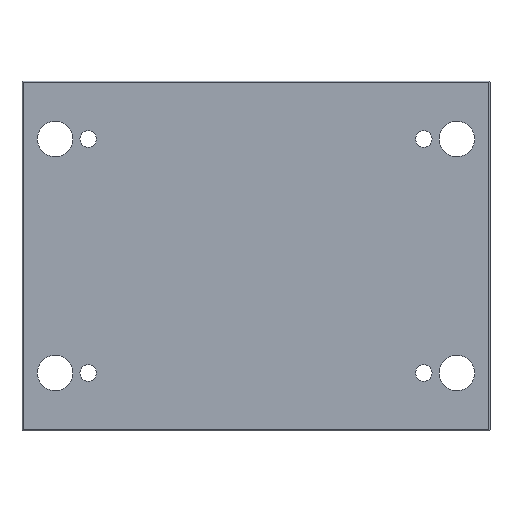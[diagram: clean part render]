
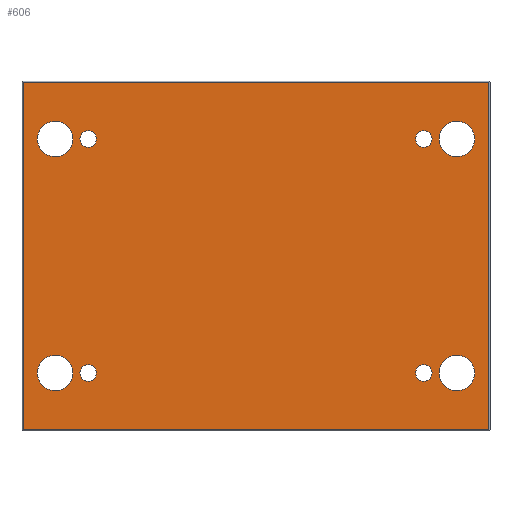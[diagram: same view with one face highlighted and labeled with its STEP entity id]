
A CAD part, front view. The second image highlights one B-rep face of the part: STEP entity #606.
In plain terms, the highlighted planar face has unit normal (0, -1, 0).
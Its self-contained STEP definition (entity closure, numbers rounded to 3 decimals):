
#42=CIRCLE('',#665,7.);
#43=CIRCLE('',#666,7.);
#44=CIRCLE('',#667,7.);
#45=CIRCLE('',#668,7.);
#46=CIRCLE('',#669,15.);
#47=CIRCLE('',#670,15.);
#48=CIRCLE('',#671,15.);
#49=CIRCLE('',#672,15.);
#112=ORIENTED_EDGE('',*,*,#252,.F.);
#113=ORIENTED_EDGE('',*,*,#253,.F.);
#114=ORIENTED_EDGE('',*,*,#254,.F.);
#115=ORIENTED_EDGE('',*,*,#255,.F.);
#116=ORIENTED_EDGE('',*,*,#256,.F.);
#117=ORIENTED_EDGE('',*,*,#257,.F.);
#118=ORIENTED_EDGE('',*,*,#258,.F.);
#119=ORIENTED_EDGE('',*,*,#259,.F.);
#120=ORIENTED_EDGE('',*,*,#260,.F.);
#121=ORIENTED_EDGE('',*,*,#246,.F.);
#122=ORIENTED_EDGE('',*,*,#261,.T.);
#123=ORIENTED_EDGE('',*,*,#248,.T.);
#246=EDGE_CURVE('',#313,#310,#369,.T.);
#248=EDGE_CURVE('',#315,#314,#371,.T.);
#252=EDGE_CURVE('',#318,#318,#42,.T.);
#253=EDGE_CURVE('',#319,#319,#43,.T.);
#254=EDGE_CURVE('',#320,#320,#44,.T.);
#255=EDGE_CURVE('',#321,#321,#45,.T.);
#256=EDGE_CURVE('',#322,#322,#46,.T.);
#257=EDGE_CURVE('',#323,#323,#47,.T.);
#258=EDGE_CURVE('',#324,#324,#48,.T.);
#259=EDGE_CURVE('',#325,#325,#49,.T.);
#260=EDGE_CURVE('',#310,#314,#375,.T.);
#261=EDGE_CURVE('',#313,#315,#376,.T.);
#310=VERTEX_POINT('',#956);
#313=VERTEX_POINT('',#962);
#314=VERTEX_POINT('',#966);
#315=VERTEX_POINT('',#968);
#318=VERTEX_POINT('',#976);
#319=VERTEX_POINT('',#978);
#320=VERTEX_POINT('',#980);
#321=VERTEX_POINT('',#982);
#322=VERTEX_POINT('',#984);
#323=VERTEX_POINT('',#986);
#324=VERTEX_POINT('',#988);
#325=VERTEX_POINT('',#990);
#369=LINE('',#963,#417);
#371=LINE('',#967,#419);
#375=LINE('',#991,#423);
#376=LINE('',#992,#424);
#417=VECTOR('',#773,1000.);
#419=VECTOR('',#777,1000.);
#423=VECTOR('',#799,1000.);
#424=VECTOR('',#800,1000.);
#452=EDGE_LOOP('',(#112));
#453=EDGE_LOOP('',(#113));
#454=EDGE_LOOP('',(#114));
#455=EDGE_LOOP('',(#115));
#456=EDGE_LOOP('',(#116));
#457=EDGE_LOOP('',(#117));
#458=EDGE_LOOP('',(#118));
#459=EDGE_LOOP('',(#119));
#460=EDGE_LOOP('',(#120,#121,#122,#123));
#522=FACE_BOUND('',#452,.T.);
#523=FACE_BOUND('',#453,.T.);
#524=FACE_BOUND('',#454,.T.);
#525=FACE_BOUND('',#455,.T.);
#526=FACE_BOUND('',#456,.T.);
#527=FACE_BOUND('',#457,.T.);
#528=FACE_BOUND('',#458,.T.);
#529=FACE_BOUND('',#459,.T.);
#530=FACE_BOUND('',#460,.T.);
#583=PLANE('',#664);
#606=ADVANCED_FACE('',(#522,#523,#524,#525,#526,#527,#528,#529,#530),#583,
 .F.);
#664=AXIS2_PLACEMENT_3D('',#974,#781,#782);
#665=AXIS2_PLACEMENT_3D('',#975,#783,#784);
#666=AXIS2_PLACEMENT_3D('',#977,#785,#786);
#667=AXIS2_PLACEMENT_3D('',#979,#787,#788);
#668=AXIS2_PLACEMENT_3D('',#981,#789,#790);
#669=AXIS2_PLACEMENT_3D('',#983,#791,#792);
#670=AXIS2_PLACEMENT_3D('',#985,#793,#794);
#671=AXIS2_PLACEMENT_3D('',#987,#795,#796);
#672=AXIS2_PLACEMENT_3D('',#989,#797,#798);
#773=DIRECTION('',(0.,0.,-1.));
#777=DIRECTION('',(0.,0.,-1.));
#781=DIRECTION('',(0.,1.,0.));
#782=DIRECTION('',(0.,0.,1.));
#783=DIRECTION('',(0.,-1.,0.));
#784=DIRECTION('',(0.,0.,-1.));
#785=DIRECTION('',(0.,-1.,0.));
#786=DIRECTION('',(0.,0.,-1.));
#787=DIRECTION('',(0.,-1.,0.));
#788=DIRECTION('',(0.,0.,-1.));
#789=DIRECTION('',(0.,-1.,0.));
#790=DIRECTION('',(0.,0.,-1.));
#791=DIRECTION('',(0.,-1.,0.));
#792=DIRECTION('',(0.,0.,-1.));
#793=DIRECTION('',(0.,-1.,0.));
#794=DIRECTION('',(0.,0.,-1.));
#795=DIRECTION('',(0.,-1.,0.));
#796=DIRECTION('',(0.,0.,-1.));
#797=DIRECTION('',(0.,-1.,0.));
#798=DIRECTION('',(0.,0.,-1.));
#799=DIRECTION('',(-1.,0.,0.));
#800=DIRECTION('',(-1.,0.,0.));
#956=CARTESIAN_POINT('',(197.,0.,-147.));
#962=CARTESIAN_POINT('',(197.,0.,147.));
#963=CARTESIAN_POINT('',(197.,0.,148.));
#966=CARTESIAN_POINT('',(-197.,0.,-147.));
#967=CARTESIAN_POINT('',(-197.,0.,148.));
#968=CARTESIAN_POINT('',(-197.,0.,147.));
#974=CARTESIAN_POINT('',(-197.,0.,148.));
#975=CARTESIAN_POINT('',(142.,0.,99.));
#976=CARTESIAN_POINT('',(142.,0.,92.));
#977=CARTESIAN_POINT('',(-142.,0.,99.));
#978=CARTESIAN_POINT('',(-142.,0.,92.));
#979=CARTESIAN_POINT('',(142.,0.,-99.));
#980=CARTESIAN_POINT('',(142.,0.,-106.));
#981=CARTESIAN_POINT('',(-142.,0.,-99.));
#982=CARTESIAN_POINT('',(-142.,0.,-106.));
#983=CARTESIAN_POINT('',(170.,0.,99.));
#984=CARTESIAN_POINT('',(170.,0.,84.));
#985=CARTESIAN_POINT('',(-170.,0.,99.));
#986=CARTESIAN_POINT('',(-170.,0.,84.));
#987=CARTESIAN_POINT('',(170.,0.,-99.));
#988=CARTESIAN_POINT('',(170.,0.,-114.));
#989=CARTESIAN_POINT('',(-170.,0.,-99.));
#990=CARTESIAN_POINT('',(-170.,0.,-114.));
#991=CARTESIAN_POINT('',(198.,0.,-147.));
#992=CARTESIAN_POINT('',(198.,0.,147.));
